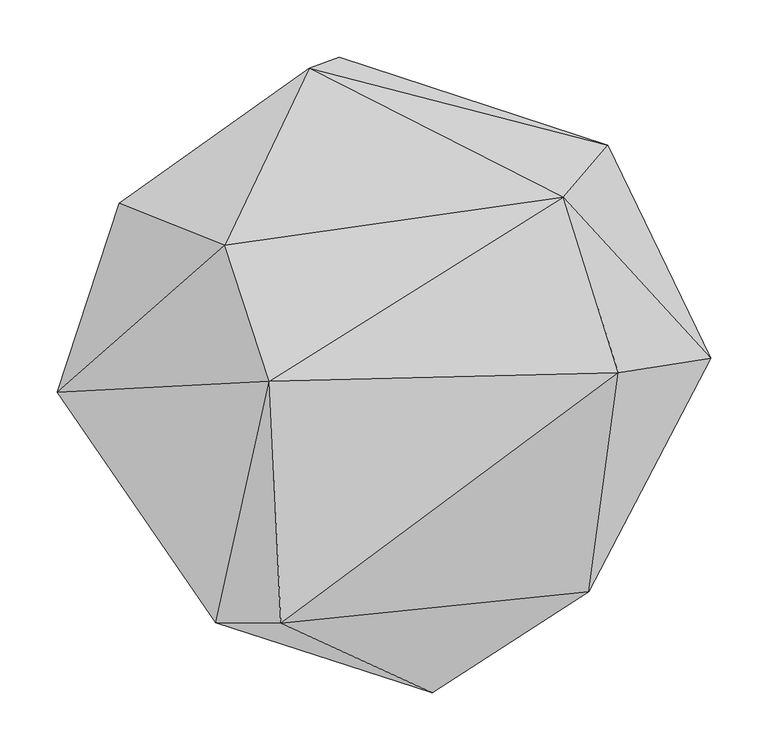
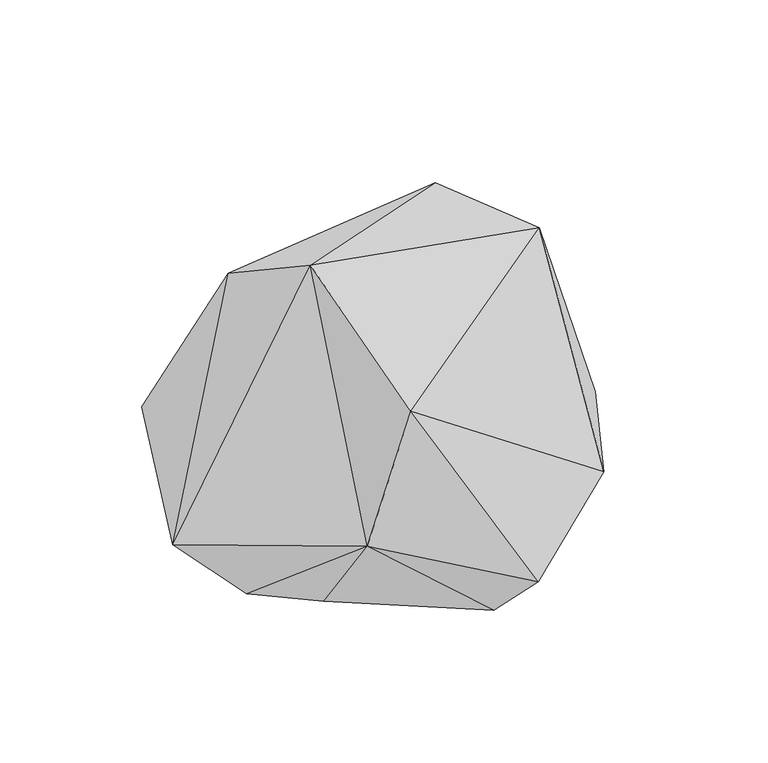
"""IFC4 building model written with IfcOpenShell, lengths in millimetres: geographic element geometry, Enscape AssetDefinition - Flower 086 Cross-leaved Heath : Enscape AssetDefinition - Flower 086 Cross-leaved Heath 2."""

from ifc_helpers import new_model, si_unit, origin, place, context, project, spatial, triangles, source, transform, mapped, element, save


def geographic_element_ee225f17(model_context):
    return source(origin(), model_context, "Body", "Tessellation", [
        triangles([(200.3526326, -0.7309586, 0.1156399), (174.5063905, 105.113851, 0.0), (201.9473027, 192.2549801, 141.1249978), (68.5473557, 160.7609359, 0.0), (-7.0583196, 185.0610333, 0.1156399), (-59.5659953, 259.8986165, 154.3793123), (30.0820891, -216.9647909, 0.0), (-198.4624319, -50.0906516, 1.249197), (-121.3448462, 131.6510848, 0.0), (-33.3114433, 269.5438671, 75.5114519), (-133.5070307, 104.7198253, 330.4161326), (-225.8961861, 141.6560791, 154.3793123), (-280.4197294, -23.8560929, 82.4412796), (-141.6560791, -225.8961861, 154.3793123), (-128.8071904, -105.0224867, 0.0), (48.1090729, -287.1710979, 75.5114519), (-84.5813471, -226.4187015, 322.4569891), (163.1094117, 146.748519, 326.7799084), (-94.4678348, -14.5406504, 400.0000031), (185.296593, -198.6237411, 126.8227458), (292.2164294, 5.7862798, 76.5964693), (211.0700199, -7.1139979, 340.7423919)], [[21, 18, 22], [21, 22, 20], [7, 21, 20], [7, 20, 16], [16, 20, 17], [17, 20, 22], [17, 22, 19], [18, 11, 19], [22, 18, 19], [14, 15, 7], [14, 16, 17], [14, 17, 19], [7, 16, 14], [7, 15, 8], [14, 8, 15], [13, 8, 14], [13, 9, 8], [13, 14, 19], [11, 13, 19], [12, 13, 11], [6, 12, 11], [18, 6, 11], [13, 10, 9], [10, 13, 12], [10, 12, 6], [5, 8, 9], [5, 9, 10], [8, 5, 4], [7, 8, 4], [3, 5, 10], [10, 6, 3], [21, 3, 18], [3, 6, 18], [3, 4, 5], [4, 2, 7], [3, 2, 4], [2, 3, 21], [2, 1, 7], [1, 2, 21], [1, 21, 7]]),
    ])


if __name__ == "__main__":
    model = new_model("IFC4")
    model_context = context("Model", 3, world=origin())
    ifc_project = project(units=[si_unit("LENGTHUNIT", "METRE", prefix="MILLI")], contexts=[model_context])
    site = spatial("IfcSite", under=ifc_project)
    building = spatial("IfcBuilding", under=site)
    placement = place(None, origin())
    geographic_element_shape = geographic_element_ee225f17(model_context)
    element("IfcGeographicElement", 1, ObjectType="Enscape AssetDefinition - Flower 086 Cross-leaved Heath : Enscape AssetDefinition - Flower 086 Cross-leaved Heath 2", at=placement, inside=building, context=model_context, shape_type="MappedRepresentation", body=[
        mapped(geographic_element_shape, transform((0.0, 0.0, 0.0), x_axis=(1.0, 0.0, 0.0), y_axis=(0.0, 1.0, 0.0), z_axis=(0.0, 0.0, 1.0))),
    ])
    save(model, "model.ifc")
